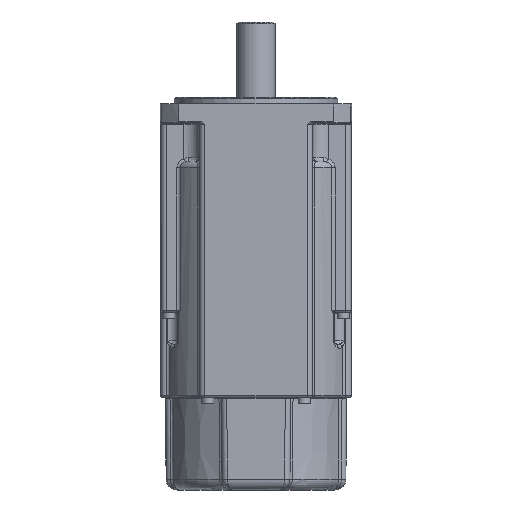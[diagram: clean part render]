
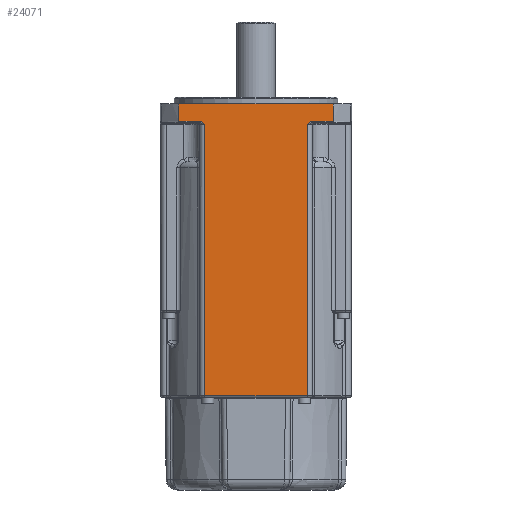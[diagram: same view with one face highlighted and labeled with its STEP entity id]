
A CAD part, front view. The second image highlights one B-rep face of the part: STEP entity #24071.
In plain terms, the highlighted planar face has unit normal (0, -1, 0).
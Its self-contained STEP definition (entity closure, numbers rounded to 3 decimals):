
#7549 = CARTESIAN_POINT ( 'NONE',  ( -28.284, -35., -0.917 ) ) ;
#7557 = DIRECTION ( 'NONE',  ( 1., 0., 0. ) ) ;
#7558 = VECTOR ( 'NONE', #7557, 1000. ) ;
#7559 = CARTESIAN_POINT ( 'NONE',  ( -35., -35., -0.917 ) ) ;
#7560 = LINE ( 'NONE', #7559, #7558 ) ;
#7565 = DIRECTION ( 'NONE',  ( 1., 0., 0. ) ) ;
#7566 = VECTOR ( 'NONE', #7565, 1000. ) ;
#7567 = CARTESIAN_POINT ( 'NONE',  ( -35., -35., -107.717 ) ) ;
#7568 = LINE ( 'NONE', #7567, #7566 ) ;
#8202 = CARTESIAN_POINT ( 'NONE',  ( -35., -35., -7.8 ) ) ;
#8203 = AXIS2_PLACEMENT_3D ( 'NONE', #8202, #8242, #8241 ) ;
#8204 = PLANE ( 'NONE',  #8203 ) ;
#8206 = FACE_OUTER_BOUND ( 'NONE', #23848, .T. ) ;
#8241 = DIRECTION ( 'NONE',  ( 1., 0., 0. ) ) ;
#8242 = DIRECTION ( 'NONE',  ( 0., -1., 0. ) ) ;
#9450 = DIRECTION ( 'NONE',  ( 0., 0., 1. ) ) ;
#9451 = VECTOR ( 'NONE', #9450, 1000. ) ;
#9452 = CARTESIAN_POINT ( 'NONE',  ( -28.284, -35., -85.72 ) ) ;
#9453 = LINE ( 'NONE', #9452, #9451 ) ;
#15026 = CARTESIAN_POINT ( 'NONE',  ( 28.284, -35., -7.304 ) ) ;
#15852 = CARTESIAN_POINT ( 'NONE',  ( 20.703, -35., -7.304 ) ) ;
#15863 = DIRECTION ( 'NONE',  ( 1., 0., 0. ) ) ;
#15864 = VECTOR ( 'NONE', #15863, 1000. ) ;
#15865 = CARTESIAN_POINT ( 'NONE',  ( 31.225, -35., -7.304 ) ) ;
#15866 = LINE ( 'NONE', #15865, #15864 ) ;
#17029 = CARTESIAN_POINT ( 'NONE',  ( -18.71, -35., -8.296 ) ) ;
#17031 = CARTESIAN_POINT ( 'NONE',  ( 18.71, -35., -8.296 ) ) ;
#17637 = B_SPLINE_CURVE_WITH_KNOTS ( 'NONE', 3,
 ( #17680, #17679, #17678, #17677, #17676, #17675, #17674, #17673 ),
 .UNSPECIFIED., .F., .F.,
 ( 4, 2, 2, 4 ),
 ( 0., 0.001, 0.002, 0.002 ),
 .UNSPECIFIED. ) ;
#17639 = CARTESIAN_POINT ( 'NONE',  ( 18.71, -35., -107.717 ) ) ;
#17664 = CARTESIAN_POINT ( 'NONE',  ( -18.71, -35., -107.717 ) ) ;
#17673 = CARTESIAN_POINT ( 'NONE',  ( 20.703, -35., -7.304 ) ) ;
#17674 = CARTESIAN_POINT ( 'NONE',  ( 20.512, -35., -7.304 ) ) ;
#17675 = CARTESIAN_POINT ( 'NONE',  ( 20.324, -35., -7.339 ) ) ;
#17676 = CARTESIAN_POINT ( 'NONE',  ( 19.962, -35., -7.454 ) ) ;
#17677 = CARTESIAN_POINT ( 'NONE',  ( 19.792, -35., -7.534 ) ) ;
#17678 = CARTESIAN_POINT ( 'NONE',  ( 19.301, -35., -7.815 ) ) ;
#17679 = CARTESIAN_POINT ( 'NONE',  ( 19.003, -35., -8.056 ) ) ;
#17680 = CARTESIAN_POINT ( 'NONE',  ( 18.71, -35., -8.296 ) ) ;
#17735 = DIRECTION ( 'NONE',  ( 0., 0., -1. ) ) ;
#17736 = VECTOR ( 'NONE', #17735, 1000. ) ;
#17737 = CARTESIAN_POINT ( 'NONE',  ( -18.71, -35., -108.217 ) ) ;
#17738 = LINE ( 'NONE', #17737, #17736 ) ;
#17847 = LINE ( 'NONE', #17887, #17886 ) ;
#17885 = DIRECTION ( 'NONE',  ( 0., 0., 1. ) ) ;
#17886 = VECTOR ( 'NONE', #17885, 1000. ) ;
#17887 = CARTESIAN_POINT ( 'NONE',  ( 18.71, -35., -7.8 ) ) ;
#18601 = CARTESIAN_POINT ( 'NONE',  ( -28.284, -35., -7.304 ) ) ;
#18602 = CARTESIAN_POINT ( 'NONE',  ( -20.703, -35., -7.304 ) ) ;
#18834 = CARTESIAN_POINT ( 'NONE',  ( -18.71, -35., -7.304 ) ) ;
#18835 = LINE ( 'NONE', #18834, #18893 ) ;
#18871 = CARTESIAN_POINT ( 'NONE',  ( -18.71, -35., -8.296 ) ) ;
#18872 = CARTESIAN_POINT ( 'NONE',  ( -19.003, -35., -8.056 ) ) ;
#18873 = CARTESIAN_POINT ( 'NONE',  ( -19.301, -35., -7.815 ) ) ;
#18874 = CARTESIAN_POINT ( 'NONE',  ( -19.792, -35., -7.534 ) ) ;
#18875 = CARTESIAN_POINT ( 'NONE',  ( -19.962, -35., -7.454 ) ) ;
#18876 = CARTESIAN_POINT ( 'NONE',  ( -20.324, -35., -7.339 ) ) ;
#18877 = CARTESIAN_POINT ( 'NONE',  ( -20.512, -35., -7.304 ) ) ;
#18878 = CARTESIAN_POINT ( 'NONE',  ( -20.703, -35., -7.304 ) ) ;
#18882 = B_SPLINE_CURVE_WITH_KNOTS ( 'NONE', 3,
 ( #18878, #18877, #18876, #18875, #18874, #18873, #18872, #18871 ),
 .UNSPECIFIED., .F., .F.,
 ( 4, 2, 2, 4 ),
 ( 0., 0.001, 0.001, 0.002 ),
 .UNSPECIFIED. ) ;
#18892 = DIRECTION ( 'NONE',  ( 1., 0., 0. ) ) ;
#18893 = VECTOR ( 'NONE', #18892, 1000. ) ;
#21424 = CARTESIAN_POINT ( 'NONE',  ( 28.284, -35., -0.917 ) ) ;
#21441 = DIRECTION ( 'NONE',  ( 0., 0., -1. ) ) ;
#21442 = VECTOR ( 'NONE', #21441, 1000. ) ;
#21443 = CARTESIAN_POINT ( 'NONE',  ( 28.284, -35., -85.72 ) ) ;
#21444 = LINE ( 'NONE', #21443, #21442 ) ;
#23809 = ORIENTED_EDGE ( 'NONE', *, *, #26937, .T. ) ;
#23814 = ORIENTED_EDGE ( 'NONE', *, *, #27002, .T. ) ;
#23827 = ORIENTED_EDGE ( 'NONE', *, *, #23859, .F. ) ;
#23836 = VERTEX_POINT ( 'NONE', #7549 ) ;
#23845 = ORIENTED_EDGE ( 'NONE', *, *, #24484, .F. ) ;
#23848 = EDGE_LOOP ( 'NONE', ( #23992, #23990, #23814, #23809, #23852, #23863, #23827, #23845, #24483, #24422 ) ) ;
#23852 = ORIENTED_EDGE ( 'NONE', *, *, #26420, .T. ) ;
#23853 = EDGE_CURVE ( 'NONE', #26951, #26936, #7568, .T. ) ;
#23859 = EDGE_CURVE ( 'NONE', #23836, #28154, #7560, .T. ) ;
#23863 = ORIENTED_EDGE ( 'NONE', *, *, #28151, .F. ) ;
#23990 = ORIENTED_EDGE ( 'NONE', *, *, #23853, .T. ) ;
#23992 = ORIENTED_EDGE ( 'NONE', *, *, #26953, .T. ) ;
#24071 = ADVANCED_FACE ( 'NONE', ( #8206 ), #8204, .T. ) ;
#24422 = ORIENTED_EDGE ( 'NONE', *, *, #27321, .T. ) ;
#24483 = ORIENTED_EDGE ( 'NONE', *, *, #27316, .T. ) ;
#24484 = EDGE_CURVE ( 'NONE', #27202, #23836, #9453, .T. ) ;
#26281 = VERTEX_POINT ( 'NONE', #15026 ) ;
#26420 = EDGE_CURVE ( 'NONE', #26421, #26281, #15866, .T. ) ;
#26421 = VERTEX_POINT ( 'NONE', #15852 ) ;
#26748 = VERTEX_POINT ( 'NONE', #17031 ) ;
#26751 = VERTEX_POINT ( 'NONE', #17029 ) ;
#26936 = VERTEX_POINT ( 'NONE', #17639 ) ;
#26937 = EDGE_CURVE ( 'NONE', #26748, #26421, #17637, .T. ) ;
#26951 = VERTEX_POINT ( 'NONE', #17664 ) ;
#26953 = EDGE_CURVE ( 'NONE', #26751, #26951, #17738, .T. ) ;
#27002 = EDGE_CURVE ( 'NONE', #26936, #26748, #17847, .T. ) ;
#27199 = VERTEX_POINT ( 'NONE', #18602 ) ;
#27202 = VERTEX_POINT ( 'NONE', #18601 ) ;
#27316 = EDGE_CURVE ( 'NONE', #27202, #27199, #18835, .T. ) ;
#27321 = EDGE_CURVE ( 'NONE', #27199, #26751, #18882, .T. ) ;
#28151 = EDGE_CURVE ( 'NONE', #28154, #26281, #21444, .T. ) ;
#28154 = VERTEX_POINT ( 'NONE', #21424 ) ;
